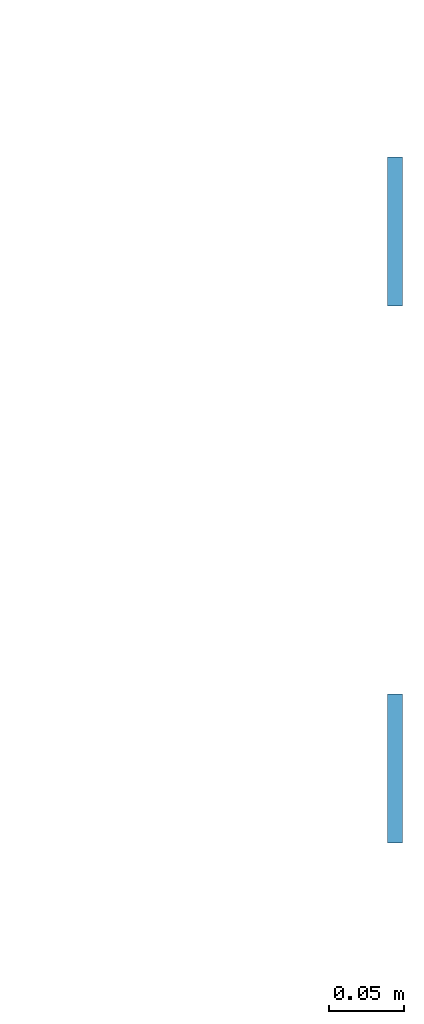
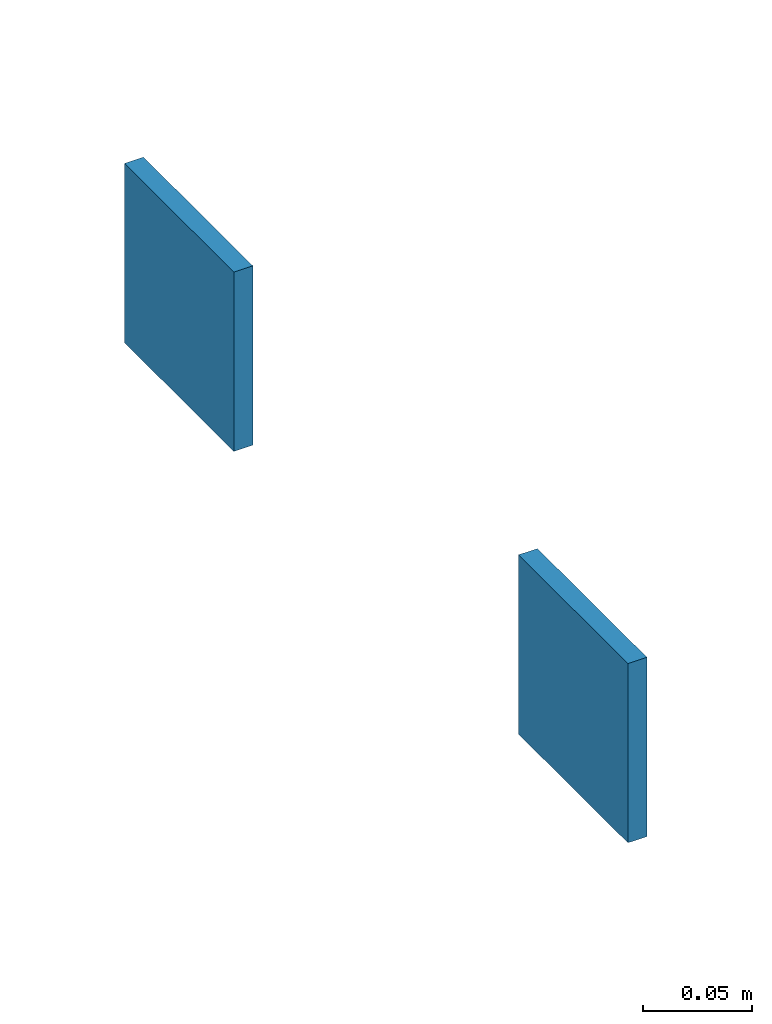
# One storey, part 16 of 22: 2 beams.
"""IFC2X3 building model written with IfcOpenShell, lengths in millimetres."""

from ifc_helpers import new_model, entity, si_unit, converted_unit, derived_unit, direction, frame, origin, origin_2d_with_axis, place, context, subcontext, project, spatial, rectangle, extrude, source, transform, mapped, material, type_object, type_shapes, element, save


model = new_model("IFC2X3")

# Units and contexts
model_context = context("Model", 3, precision=0.01, world=origin(), true_north=direction((6.12303176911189e-17, 1.0)))
body_context = subcontext(model_context, "Body", "Model", "MODEL_VIEW")
ifc_project = project(units=[si_unit("LENGTHUNIT", "METRE", prefix="MILLI"), si_unit("AREAUNIT", "SQUARE_METRE"), si_unit("VOLUMEUNIT", "CUBIC_METRE"), converted_unit("PLANEANGLEUNIT", "DEGREE", entity("IfcRatioMeasure", 0.0174532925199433), si_unit("PLANEANGLEUNIT", "RADIAN"), dimensions=[0, 0, 0, 0, 0, 0, 0]), si_unit("MASSUNIT", "GRAM", prefix="KILO"), derived_unit("MASSDENSITYUNIT", [(si_unit("MASSUNIT", "GRAM", prefix="KILO"), 1), (si_unit("LENGTHUNIT", "METRE"), -3)]), si_unit("TIMEUNIT", "SECOND"), si_unit("FREQUENCYUNIT", "HERTZ"), si_unit("THERMODYNAMICTEMPERATUREUNIT", "DEGREE_CELSIUS"), derived_unit("THERMALTRANSMITTANCEUNIT", [(si_unit("MASSUNIT", "GRAM", prefix="KILO"), 1), (si_unit("THERMODYNAMICTEMPERATUREUNIT", "KELVIN"), -1), (si_unit("TIMEUNIT", "SECOND"), -3)]), derived_unit("VOLUMETRICFLOWRATEUNIT", [(si_unit("LENGTHUNIT", "METRE"), 3), (si_unit("TIMEUNIT", "SECOND"), -1)]), si_unit("ELECTRICCURRENTUNIT", "AMPERE"), si_unit("ELECTRICVOLTAGEUNIT", "VOLT"), si_unit("POWERUNIT", "WATT"), si_unit("FORCEUNIT", "NEWTON", prefix="KILO"), si_unit("ILLUMINANCEUNIT", "LUX"), si_unit("LUMINOUSFLUXUNIT", "LUMEN"), si_unit("LUMINOUSINTENSITYUNIT", "CANDELA"), derived_unit("USERDEFINED", [(si_unit("MASSUNIT", "GRAM", prefix="KILO"), -1), (si_unit("LENGTHUNIT", "METRE"), -2), (si_unit("TIMEUNIT", "SECOND"), 3), (si_unit("LUMINOUSFLUXUNIT", "LUMEN"), 1)]), derived_unit("LINEARVELOCITYUNIT", [(si_unit("LENGTHUNIT", "METRE"), 1), (si_unit("TIMEUNIT", "SECOND"), -1)]), si_unit("PRESSUREUNIT", "PASCAL"), derived_unit("USERDEFINED", [(si_unit("LENGTHUNIT", "METRE"), -2), (si_unit("MASSUNIT", "GRAM", prefix="KILO"), 1), (si_unit("TIMEUNIT", "SECOND"), -2)])], contexts=[model_context])

# Site, building, storey
site_placement = place(None, origin())
site = spatial("IfcSite", under=ifc_project, at=site_placement, Name="Default", CompositionType="ELEMENT")
building_placement = place(site_placement, origin())
building = spatial("IfcBuilding", under=site, at=building_placement, Name="niet gebruiken", CompositionType="ELEMENT")
storey_placement = place(building_placement, frame((0.0, 0.0, 15000.0)))
storey = spatial("IfcBuildingStorey", under=building, at=storey_placement, Name="04 vierde verdieping", CompositionType="ELEMENT", Elevation=15000.0)

# Beams
ifc_material = material(Name="NLRS_h2_staal")
beam_type = type_object("IfcBeamType", Name="ligger stripstaal RECT_100x10 gedraaid", PredefinedType="BEAM", material=ifc_material)
shared_shape = source(origin(), body_context, "Body", "SweptSolid", [
    extrude(rectangle(XDim=100.0, YDim=9.99999999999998, at=origin_2d_with_axis()), frame((0.0, 0.0, -50.0), z_axis=(0.0, 0.0, 1.0), x_axis=(-1.0, 0.0, 0.0)), (0.0, 0.0, 1.0), 100.0),
    extrude(rectangle(XDim=100.0, YDim=9.99999999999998, at=origin_2d_with_axis()), frame((0.0, 0.0, -50.0), z_axis=(0.0, 0.0, 1.0), x_axis=(-1.0, 0.0, 0.0)), (0.0, 0.0, 1.0), 100.0),
])
type_shapes(beam_type, [shared_shape])
for number, where, z_axis, x_axis, name in (
    (1, (158806.0, 5750.0, 1792.0), (0.0, 0.0, 1.0), (0.0, -1.0, 0.0), "NLRS_28.11_SF_WPB_stalen ligger stripstaal_gen:ligger stripstaal RECT_100x10 gedraaid"),
    (2, (158806.0, 5390.0, 1792.0), (0.0, 0.0, 1.0), (0.0, -1.0, 0.0), "NLRS_28.11_SF_WPB_stalen ligger stripstaal_gen:ligger stripstaal RECT_100x10 gedraaid"),
):
    element("IfcBeam", number, at=place(storey_placement, frame(where, z_axis=z_axis, x_axis=x_axis)), inside=storey, type_object=beam_type, material=ifc_material, Name=name, ObjectType="ligger stripstaal RECT_100x10 gedraaid", context=body_context, shape_type="MappedRepresentation", body=[
        mapped(shared_shape, transform((0.0, 0.0, 0.0), scale=1.0)),
    ])

save(model, "model.ifc")
